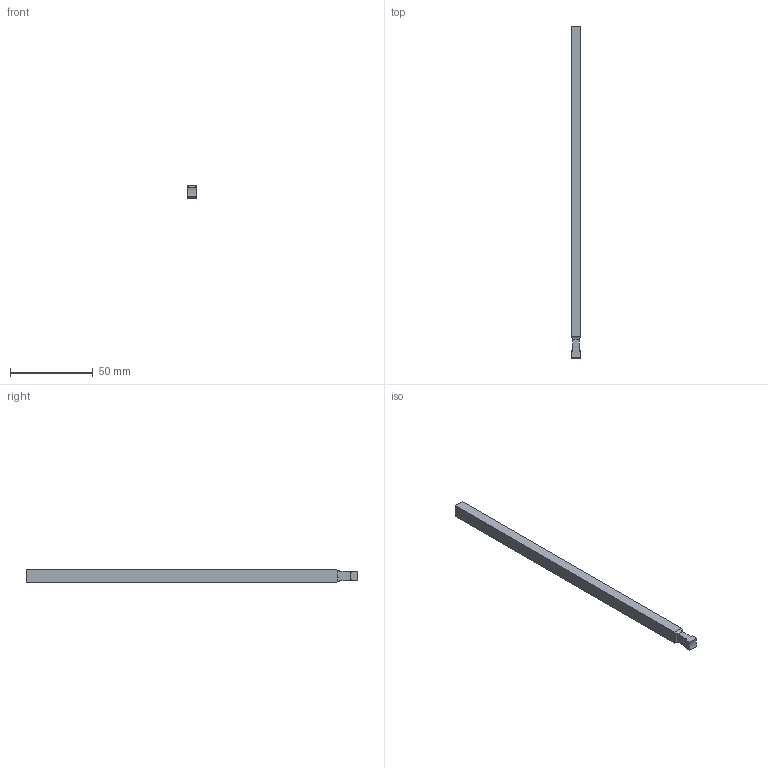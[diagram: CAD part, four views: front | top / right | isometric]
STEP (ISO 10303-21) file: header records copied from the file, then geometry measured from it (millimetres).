
FILE_DESCRIPTION (( 'STEP AP203' ), '1' );
FILE_NAME ('CBMMP8X6L200.step', '2025-04-18T17:50:28', ( '' ), ( '' ), 'SwSTEP 2.0', 'SolidWorks 2023', '' );
FILE_SCHEMA (( 'CONFIG_CONTROL_DESIGN' ));
Length unit declared in the file: millimetre
Products named in the file (1): CBMMP8X6L200
Bounding box: 6 x 200.38 x 8 mm (x, y, z)
Volume: 9356.8 mm3; surface area: 5633 mm2
Topology: 1 solids, 1 shells, 22 faces, 60 edges, 40 vertices
Faces by surface type: plane 11, cylinder 7, torus 4
Entity records: 815 total; most frequent: CARTESIAN_POINT 171, ORIENTED_EDGE 120, DIRECTION 120, EDGE_CURVE 60, AXIS2_PLACEMENT_3D 45, VERTEX_POINT 40, VECTOR 30, LINE 30
